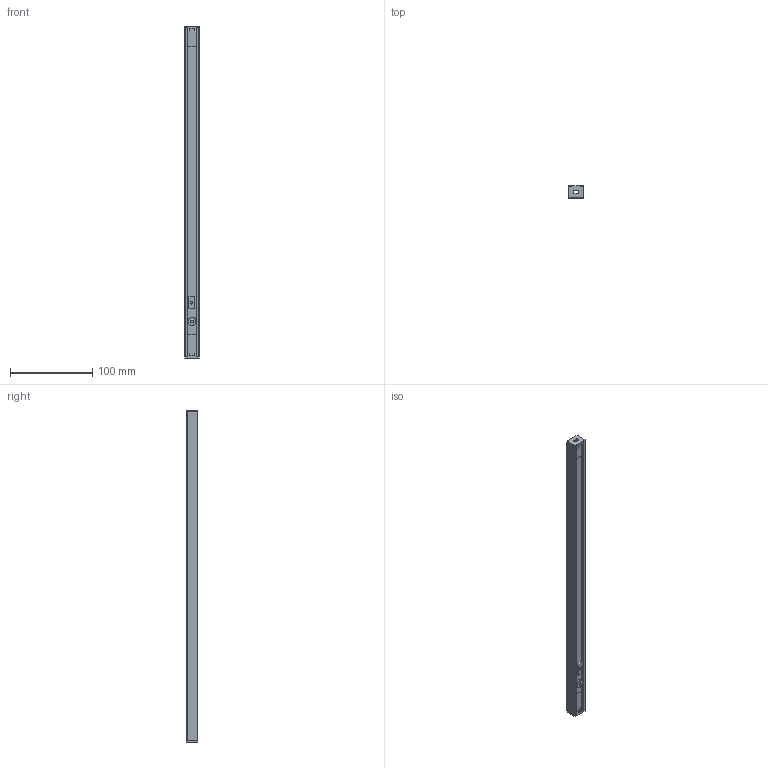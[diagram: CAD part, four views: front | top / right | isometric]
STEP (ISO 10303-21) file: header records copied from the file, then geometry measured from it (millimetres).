
FILE_DESCRIPTION (( 'STEP AP214' ), '1' );
FILE_NAME ('Pordenone .STEP', '2024-03-29T10:02:13', ( '' ), ( '' ), 'SwSTEP 2.0', 'SolidWorks 2021', '' );
FILE_SCHEMA (( 'AUTOMOTIVE_DESIGN' ));
Length unit declared in the file: millimetre
Products named in the file (1): Pordenone 
Bounding box: 17.44 x 14.18 x 403.4 mm (x, y, z)
Volume: 39362.2 mm3; surface area: 68118.4 mm2
Topology: 7 solids, 7 shells, 304 faces, 808 edges, 514 vertices
Faces by surface type: plane 140, cylinder 122, torus 22, bspline 8, sphere 8, cone 4
Entity records: 13316 total; most frequent: CARTESIAN_POINT 2199, DIRECTION 1646, ORIENTED_EDGE 1600, EDGE_CURVE 800, AXIS2_PLACEMENT_3D 581, VERTEX_POINT 514, VECTOR 484, LINE 484
